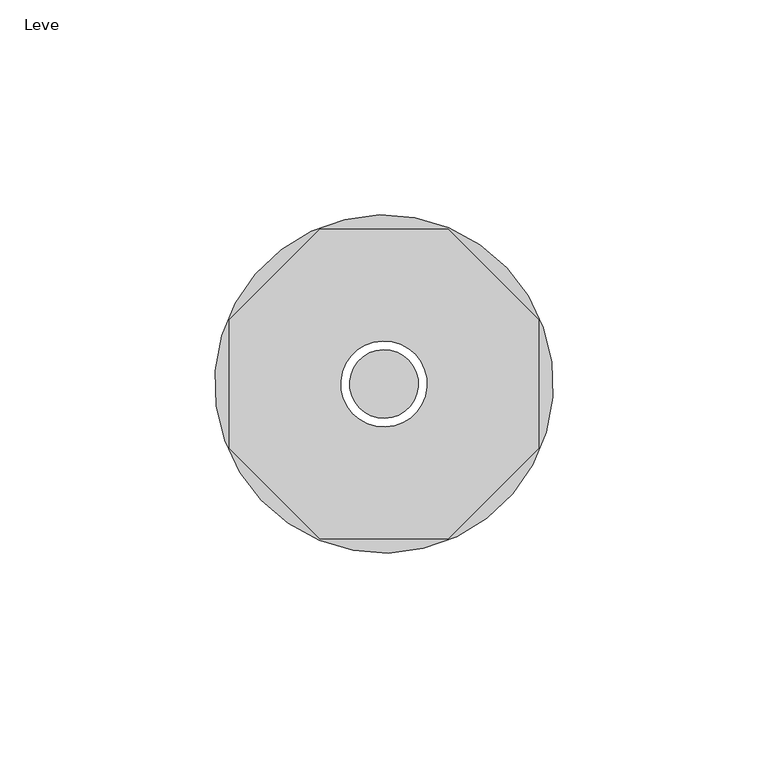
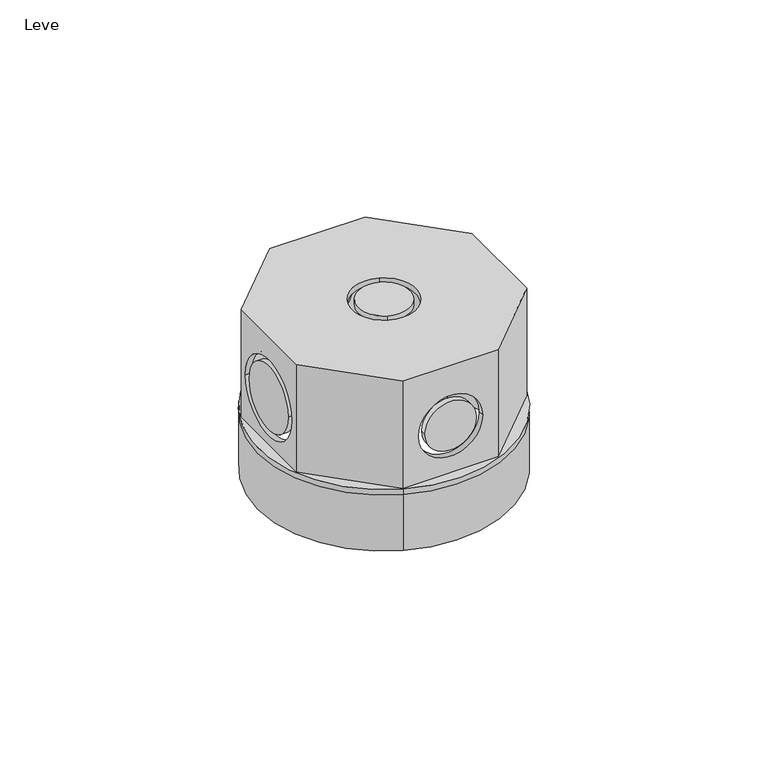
"""IFC4 building model written with IfcOpenShell, lengths in millimetres: pipe fitting geometry, AmancoWavin_ConexõesdoConduite_LinhaEletricaCorrugadoCaixaOctogonal3x3 : Leve."""

from ifc_helpers import new_model, si_unit, frame, origin, place, context, project, spatial, polyline, circle_curve, source, transform, mapped, element, save
from ifc_brep_helpers import plane_surface, cylinder_surface, revolved_surface, advanced_brep


def leve_111e3c81(model_context):
    return source(origin(), model_context, "Body", "AdvancedBrep", [
        advanced_brep(
        [(15.0585931, 36.3546596, 20.3), (-15.0585931, -36.3546596, 20.3), (-36.0, -14.9116882, 20.3), (-36.0, 14.9116882, 20.3), (-14.9116882, 36.0, 20.3), (14.9116882, 36.0, 20.3), (36.0, 14.9116882, 20.3), (36.0, -14.9116882, 20.3), (14.9116882, -36.0, 20.3), (-14.9116882, -36.0, 20.3), (15.0585931, 36.3546596, 18.5), (-15.0585931, -36.3546596, 18.5), (15.0585931, 36.3546596, 0.0), (-15.0585931, -36.3546596, 0.0), (14.3697629, 34.6916764, 0.0), (-14.3697629, -34.6916764, 0.0), (-14.3697629, -34.6916764, 18.5), (14.3697629, 34.6916764, 18.5), (-34.2, 14.1661038, 53.9), (-14.1661038, 34.2, 53.9), (14.1661038, 34.2, 53.9), (34.2, 14.1661038, 53.9), (34.2, -14.1661038, 53.9), (14.1661038, -34.2, 53.9), (-14.1661038, -34.2, 53.9), (-34.2, -14.1661038, 53.9), (3.8268343, 9.2387953, 53.9), (-3.8268343, -9.2387953, 53.9), (-34.2, -14.1661038, 18.5), (-34.2, 14.1661038, 18.5), (-34.2, 12.5, 35.7), (-34.2, -12.5, 35.7), (-14.1661038, -34.2, 18.5), (14.1661038, -34.2, 18.5), (-10.0, -34.2, 35.7), (10.0, -34.2, 35.7), (34.2, -14.1661038, 18.5), (34.2, 14.1661038, 18.5), (34.2, -12.5, 35.7), (34.2, 12.5, 35.7), (14.1661038, 34.2, 18.5), (-14.1661038, 34.2, 18.5), (10.0, 34.2, 35.7), (-10.0, 34.2, 35.7), (-36.0, 14.9116882, 55.7), (-36.0, -14.9116882, 55.7), (-14.9116882, -36.0, 55.7), (14.9116882, -36.0, 55.7), (36.0, -14.9116882, 55.7), (36.0, 14.9116882, 55.7), (14.9116882, 36.0, 55.7), (-14.9116882, 36.0, 55.7), (-3.8268343, -9.2387953, 55.7), (3.8268343, 9.2387953, 55.7), (-36.0, -12.5, 35.7), (-36.0, 12.5, 35.7), (10.0, -36.0, 35.7), (-10.0, -36.0, 35.7), (36.0, 12.5, 35.7), (36.0, -12.5, 35.7), (-10.0, 36.0, 35.7), (10.0, 36.0, 35.7)],
        [
            (0, 1, circle_curve(frame((0.0, 0.0, 20.3), z_axis=(0.0, 0.0, 1.0), x_axis=(-0.3826834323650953, -0.9238795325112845, 0.0)), 39.35)),
            (1, 0, circle_curve(frame((0.0, 0.0, 20.3), z_axis=(0.0, 0.0, 1.0), x_axis=(-0.3826834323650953, -0.9238795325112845, 0.0)), 39.35)),
            (2, 3),
            (3, 4),
            (4, 5),
            (5, 6),
            (6, 7),
            (7, 8),
            (8, 9),
            (9, 2),
            (0, 10),
            (10, 11, circle_curve(frame((0.0, 0.0, 18.5), z_axis=(0.0, 0.0, 1.0), x_axis=(-0.3826834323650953, -0.9238795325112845, 0.0)), 39.35)),
            (11, 1),
            (11, 10, circle_curve(frame((0.0, 0.0, 18.5), z_axis=(0.0, 0.0, 1.0), x_axis=(-0.3826834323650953, -0.9238795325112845, 0.0)), 39.35)),
            (12, 13, circle_curve(frame((0.0, 0.0, 0.0), z_axis=(0.0, 0.0, -1.0), x_axis=(-0.3826834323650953, -0.9238795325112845, 0.0)), 39.35)),
            (13, 12, circle_curve(frame((0.0, 0.0, 0.0), z_axis=(0.0, 0.0, -1.0), x_axis=(-0.3826834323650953, -0.9238795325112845, 0.0)), 39.35)),
            (14, 15, circle_curve(frame((0.0, 0.0, 0.0), z_axis=(0.0, 0.0, 1.0), x_axis=(-0.3826834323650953, -0.9238795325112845, 0.0)), 37.55)),
            (15, 14, circle_curve(frame((0.0, 0.0, 0.0), z_axis=(0.0, 0.0, 1.0), x_axis=(-0.3826834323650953, -0.9238795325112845, 0.0)), 37.55)),
            (13, 11),
            (10, 12),
            (15, 16),
            (16, 17, circle_curve(frame((0.0, 0.0, 18.5), z_axis=(0.0, 0.0, 1.0), x_axis=(-0.3826834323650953, -0.9238795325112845, 0.0)), 37.55)),
            (17, 14),
            (17, 16, circle_curve(frame((0.0, 0.0, 18.5), z_axis=(0.0, 0.0, 1.0), x_axis=(-0.3826834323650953, -0.9238795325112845, 0.0)), 37.55)),
            (18, 19),
            (19, 20),
            (20, 21),
            (21, 22),
            (22, 23),
            (23, 24),
            (24, 25),
            (25, 18),
            (26, 27, circle_curve(frame((0.0, 0.0, 53.9), z_axis=(0.0, 0.0, 1.0), x_axis=(-0.3826834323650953, -0.9238795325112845, 0.0)), 10.0)),
            (27, 26, circle_curve(frame((0.0, 0.0, 53.9), z_axis=(0.0, 0.0, 1.0), x_axis=(-0.3826834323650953, -0.9238795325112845, 0.0)), 10.0)),
            (25, 28),
            (28, 29),
            (29, 18),
            (30, 31, circle_curve(frame((-34.2, 0.0, 35.7), z_axis=(-1.0, 0.0, 0.0), x_axis=(0.0, -1.0, 0.0)), 12.5)),
            (31, 30, circle_curve(frame((-34.2, 0.0, 35.7), z_axis=(-1.0, 0.0, 0.0), x_axis=(0.0, -1.0, 0.0)), 12.5)),
            (24, 32),
            (32, 28),
            (23, 33),
            (33, 32),
            (34, 35, circle_curve(frame((0.0, -34.2, 35.7), z_axis=(0.0, -1.0, 0.0), x_axis=(-1.0, 0.0, 0.0)), 10.0)),
            (35, 34, circle_curve(frame((0.0, -34.2, 35.7), z_axis=(0.0, -1.0, 0.0), x_axis=(-1.0, 0.0, 0.0)), 10.0)),
            (22, 36),
            (36, 33),
            (21, 37),
            (37, 36),
            (38, 39, circle_curve(frame((34.2, 0.0, 35.7), z_axis=(1.0, 0.0, 0.0), x_axis=(0.0, -1.0, 0.0)), 12.5)),
            (39, 38, circle_curve(frame((34.2, 0.0, 35.7), z_axis=(1.0, 0.0, 0.0), x_axis=(0.0, -1.0, 0.0)), 12.5)),
            (20, 40),
            (40, 37),
            (19, 41),
            (41, 40),
            (42, 43, circle_curve(frame((0.0, 34.2, 35.7), z_axis=(0.0, 1.0, 0.0), x_axis=(-1.0, 0.0, 0.0)), 10.0)),
            (43, 42, circle_curve(frame((0.0, 34.2, 35.7), z_axis=(0.0, 1.0, 0.0), x_axis=(-1.0, 0.0, 0.0)), 10.0)),
            (29, 41),
            (44, 45),
            (45, 46),
            (46, 47),
            (47, 48),
            (48, 49),
            (49, 50),
            (50, 51),
            (51, 44),
            (52, 53, circle_curve(frame((0.0, 0.0, 55.7), z_axis=(0.0, 0.0, -1.0), x_axis=(-0.3826834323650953, -0.9238795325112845, 0.0)), 10.0)),
            (53, 52, circle_curve(frame((0.0, 0.0, 55.7), z_axis=(0.0, 0.0, -1.0), x_axis=(-0.3826834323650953, -0.9238795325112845, 0.0)), 10.0)),
            (44, 3),
            (2, 45),
            (54, 55, circle_curve(frame((-36.0, 0.0, 35.7), z_axis=(1.0, 0.0, 0.0), x_axis=(0.0, -1.0, 0.0)), 12.5)),
            (55, 54, circle_curve(frame((-36.0, 0.0, 35.7), z_axis=(1.0, 0.0, 0.0), x_axis=(0.0, -1.0, 0.0)), 12.5)),
            (9, 46),
            (8, 47),
            (56, 57, circle_curve(frame((0.0, -36.0, 35.7), z_axis=(0.0, 1.0, 0.0), x_axis=(-1.0, 0.0, 0.0)), 10.0)),
            (57, 56, circle_curve(frame((0.0, -36.0, 35.7), z_axis=(0.0, 1.0, 0.0), x_axis=(-1.0, 0.0, 0.0)), 10.0)),
            (7, 48),
            (6, 49),
            (58, 59, circle_curve(frame((36.0, 0.0, 35.7), z_axis=(-1.0, 0.0, 0.0), x_axis=(0.0, -1.0, 0.0)), 12.5)),
            (59, 58, circle_curve(frame((36.0, 0.0, 35.7), z_axis=(-1.0, 0.0, 0.0), x_axis=(0.0, -1.0, 0.0)), 12.5)),
            (5, 50),
            (4, 51),
            (60, 61, circle_curve(frame((0.0, 36.0, 35.7), z_axis=(0.0, -1.0, 0.0), x_axis=(-1.0, 0.0, 0.0)), 10.0)),
            (61, 60, circle_curve(frame((0.0, 36.0, 35.7), z_axis=(0.0, -1.0, 0.0), x_axis=(-1.0, 0.0, 0.0)), 10.0)),
            (52, 27),
            (26, 53),
            (56, 35),
            (34, 57),
            (60, 43),
            (42, 61),
            (54, 31),
            (30, 55),
            (58, 39),
            (38, 59),
        ],
        [
            plane_surface(frame((-15.0585931, -36.3546596, 20.3), z_axis=(0.0, 0.0, 1.0), x_axis=(0.9238795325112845, -0.3826834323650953, 0.0))),
            cylinder_surface(frame((0.0, 0.0, 18.5), z_axis=(0.0, 0.0, 1.0), x_axis=(-0.3826834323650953, -0.9238795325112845, 0.0)), 39.35),
            plane_surface(frame((-15.0585931, -36.3546596, 0.0), z_axis=(0.0, 0.0, -1.0), x_axis=(-0.9238795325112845, 0.3826834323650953, 0.0))),
            cylinder_surface(frame((0.0, 0.0, 0.0), z_axis=(0.0, 0.0, 1.0), x_axis=(-0.3826834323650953, -0.9238795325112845, 0.0)), 39.35),
            revolved_surface(polyline([(-14.369762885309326, -34.691676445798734, 0.0), (-14.369762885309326, -34.691676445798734, 18.5)]), (0.0, 0.0, 32.2), (0.0, 0.0, -1.0)),
            plane_surface(frame((-34.2, 14.1661038, 53.9), z_axis=(0.0, 0.0, -1.0), x_axis=(0.0, -1.0, 0.0))),
            plane_surface(frame((-34.2, 14.1661038, 53.9), z_axis=(1.0, 0.0, 0.0), x_axis=(0.0, 0.0, -1.0))),
            plane_surface(frame((-34.2, -14.1661038, 53.9), z_axis=(0.7071067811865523, 0.7071067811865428, 0.0), x_axis=(0.0, 0.0, -1.0))),
            plane_surface(frame((-14.1661038, -34.2, 53.9), z_axis=(0.0, 1.0, 0.0), x_axis=(0.0, 0.0, -1.0))),
            plane_surface(frame((14.1661038, -34.2, 53.9), z_axis=(-0.7071067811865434, 0.7071067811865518, 0.0), x_axis=(0.0, 0.0, -1.0))),
            plane_surface(frame((34.2, -14.1661038, 53.9), z_axis=(-1.0, 0.0, 0.0), x_axis=(0.0, 0.0, -1.0))),
            plane_surface(frame((34.2, 14.1661038, 53.9), z_axis=(-0.7071067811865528, -0.7071067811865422, 0.0), x_axis=(0.0, 0.0, -1.0))),
            plane_surface(frame((14.1661038, 34.2, 53.9), z_axis=(0.0, -1.0, 0.0), x_axis=(0.0, 0.0, -1.0))),
            plane_surface(frame((-14.1661038, 34.2, 53.9), z_axis=(0.7071067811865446, -0.7071067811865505, 0.0), x_axis=(0.0, 0.0, -1.0))),
            plane_surface(frame((-36.0, 14.9116882, 55.7), z_axis=(0.0, 0.0, 1.0), x_axis=(0.0, -1.0, 0.0))),
            plane_surface(frame((-36.0, 14.9116882, 18.5), z_axis=(0.0, 0.0, -1.0), x_axis=(0.0, 1.0, 0.0))),
            plane_surface(frame((-36.0, 14.9116882, 55.7), z_axis=(-1.0, 0.0, 0.0), x_axis=(0.0, 0.0, -1.0))),
            plane_surface(frame((-36.0, -14.9116882, 55.7), z_axis=(-0.7071067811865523, -0.7071067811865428, 0.0), x_axis=(0.0, 0.0, -1.0))),
            plane_surface(frame((-14.9116882, -36.0, 55.7), z_axis=(0.0, -1.0, 0.0), x_axis=(0.0, 0.0, -1.0))),
            plane_surface(frame((14.9116882, -36.0, 55.7), z_axis=(0.7071067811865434, -0.7071067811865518, 0.0), x_axis=(0.0, 0.0, -1.0))),
            plane_surface(frame((36.0, -14.9116882, 55.7), z_axis=(1.0, 0.0, 0.0), x_axis=(0.0, 0.0, -1.0))),
            plane_surface(frame((36.0, 14.9116882, 55.7), z_axis=(0.7071067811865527, 0.7071067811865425, 0.0), x_axis=(0.0, 0.0, -1.0))),
            plane_surface(frame((14.9116882, 36.0, 55.7), z_axis=(0.0, 1.0, 0.0), x_axis=(0.0, 0.0, -1.0))),
            plane_surface(frame((-14.9116882, 36.0, 55.7), z_axis=(-0.7071067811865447, 0.7071067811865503, 0.0), x_axis=(0.0, 0.0, -1.0))),
            revolved_surface(polyline([(-3.826834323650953, -9.238795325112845, 55.7), (-3.826834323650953, -9.238795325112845, 53.9)]), (0.0, 0.0, 53.9), (0.0, 0.0, 1.0)),
            revolved_surface(polyline([(-10.0, -34.2, 35.7), (-10.0, -36.0, 35.7)]), (0.0, 0.0, 35.7), (0.0, 1.0, 0.0)),
            revolved_surface(polyline([(-10.0, 36.0, 35.7), (-10.0, 34.2, 35.7)]), (0.0, 0.0, 35.7), (0.0, 1.0, 0.0)),
            revolved_surface(polyline([(-36.0, -12.5, 35.7), (-34.2, -12.5, 35.7)]), (36.0, 0.0, 35.7), (-1.0, 0.0, 0.0)),
            revolved_surface(polyline([(34.2, -12.5, 35.7), (36.0, -12.5, 35.7)]), (36.0, 0.0, 35.7), (-1.0, 0.0, 0.0)),
        ],
        [
            (0, [[1, 2], [3, 4, 5, 6, 7, 8, 9, 10]]),
            (1, [[-1, 11, 12, 13]]),
            (1, [[-2, -13, 14, -11]]),
            (2, [[15, 16], [17, 18]]),
            (3, [[-16, 19, -12, 20]]),
            (3, [[-15, -20, -14, -19]]),
            (4, [[-18, 21, 22, 23]]),
            (4, [[-17, -23, 24, -21]]),
            (5, [[25, 26, 27, 28, 29, 30, 31, 32], [33, 34]]),
            (6, [[-32, 35, 36, 37], [38, 39]]),
            (7, [[-31, 40, 41, -35]]),
            (8, [[-30, 42, 43, -40], [44, 45]]),
            (9, [[-29, 46, 47, -42]]),
            (10, [[-28, 48, 49, -46], [50, 51]]),
            (11, [[-27, 52, 53, -48]]),
            (12, [[-26, 54, 55, -52], [56, 57]]),
            (13, [[-25, -37, 58, -54]]),
            (14, [[59, 60, 61, 62, 63, 64, 65, 66], [67, 68]]),
            (15, [[-22, -24], [-36, -41, -43, -47, -49, -53, -55, -58]]),
            (16, [[-59, 69, -3, 70], [71, 72]]),
            (17, [[-60, -70, -10, 73]]),
            (18, [[-61, -73, -9, 74], [75, 76]]),
            (19, [[-62, -74, -8, 77]]),
            (20, [[-63, -77, -7, 78], [79, 80]]),
            (21, [[-64, -78, -6, 81]]),
            (22, [[-65, -81, -5, 82], [83, 84]]),
            (23, [[-66, -82, -4, -69]]),
            (24, [[85, -33, 86, -67]]),
            (24, [[-85, -68, -86, -34]]),
            (25, [[-75, 87, -44, 88]]),
            (26, [[-83, 89, -56, 90]]),
            (25, [[-76, -88, -45, -87]]),
            (26, [[-84, -90, -57, -89]]),
            (27, [[-71, 91, -38, 92]]),
            (28, [[-79, 93, -50, 94]]),
            (27, [[-72, -92, -39, -91]]),
            (28, [[-80, -94, -51, -93]]),
        ],
    ),
        advanced_brep(
        [(3.0614675, 7.3910363, 53.9), (-3.0614675, -7.3910363, 53.9), (-3.0614675, -7.3910363, 55.7), (3.0614675, 7.3910363, 55.7)],
        [
            (0, 1, circle_curve(frame((0.0, 0.0, 53.9), z_axis=(0.0, 0.0, -1.0), x_axis=(-0.3826834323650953, -0.9238795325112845, 0.0)), 8.0)),
            (1, 0, circle_curve(frame((0.0, 0.0, 53.9), z_axis=(0.0, 0.0, -1.0), x_axis=(-0.3826834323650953, -0.9238795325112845, 0.0)), 8.0)),
            (2, 3, circle_curve(frame((0.0, 0.0, 55.7), z_axis=(0.0, 0.0, 1.0), x_axis=(-0.3826834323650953, -0.9238795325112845, 0.0)), 8.0)),
            (3, 2, circle_curve(frame((0.0, 0.0, 55.7), z_axis=(0.0, 0.0, 1.0), x_axis=(-0.3826834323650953, -0.9238795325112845, 0.0)), 8.0)),
            (2, 1),
            (0, 3),
        ],
        [
            plane_surface(frame((-34.2, 14.1661038, 53.9), z_axis=(0.0, 0.0, -1.0), x_axis=(0.0, -1.0, 0.0))),
            plane_surface(frame((-36.0, 14.9116882, 55.7), z_axis=(0.0, 0.0, 1.0), x_axis=(0.0, -1.0, 0.0))),
            cylinder_surface(frame((0.0, 0.0, 32.2), z_axis=(0.0, 0.0, -1.0), x_axis=(-0.3826834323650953, -0.9238795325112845, 0.0)), 8.0),
        ],
        [
            (0, [[1, 2]]),
            (1, [[3, 4]]),
            (2, [[5, -1, 6, -3]]),
            (2, [[-5, -4, -6, -2]]),
        ],
    ),
        advanced_brep(
        [(-34.2, 10.5, 35.7), (-34.2, -10.5, 35.7), (-36.0, -10.5, 35.7), (-36.0, 10.5, 35.7)],
        [
            (0, 1, circle_curve(frame((-34.2, 0.0, 35.7), z_axis=(1.0, 0.0, 0.0), x_axis=(0.0, -1.0, 0.0)), 10.5)),
            (1, 0, circle_curve(frame((-34.2, 0.0, 35.7), z_axis=(1.0, 0.0, 0.0), x_axis=(0.0, -1.0, 0.0)), 10.5)),
            (2, 3, circle_curve(frame((-36.0, 0.0, 35.7), z_axis=(-1.0, 0.0, 0.0), x_axis=(0.0, -1.0, 0.0)), 10.5)),
            (3, 2, circle_curve(frame((-36.0, 0.0, 35.7), z_axis=(-1.0, 0.0, 0.0), x_axis=(0.0, -1.0, 0.0)), 10.5)),
            (2, 1),
            (0, 3),
        ],
        [
            plane_surface(frame((-34.2, 14.1661038, 53.9), z_axis=(1.0, 0.0, 0.0), x_axis=(0.0, 0.0, -1.0))),
            plane_surface(frame((-36.0, 14.9116882, 55.7), z_axis=(-1.0, 0.0, 0.0), x_axis=(0.0, 0.0, -1.0))),
            cylinder_surface(frame((0.0, 0.0, 35.7), z_axis=(1.0, 0.0, 0.0), x_axis=(0.0, -1.0, 0.0)), 10.5),
        ],
        [
            (0, [[1, 2]]),
            (1, [[3, 4]]),
            (2, [[-3, 5, -1, 6]]),
            (2, [[-4, -6, -2, -5]]),
        ],
    ),
        advanced_brep(
        [(-8.0, -34.2, 35.7), (8.0, -34.2, 35.7), (8.0, -36.0, 35.7), (-8.0, -36.0, 35.7)],
        [
            (0, 1, circle_curve(frame((0.0, -34.2, 35.7), z_axis=(0.0, 1.0, 0.0), x_axis=(-1.0, 0.0, 0.0)), 8.0)),
            (1, 0, circle_curve(frame((0.0, -34.2, 35.7), z_axis=(0.0, 1.0, 0.0), x_axis=(-1.0, 0.0, 0.0)), 8.0)),
            (2, 3, circle_curve(frame((0.0, -36.0, 35.7), z_axis=(0.0, -1.0, 0.0), x_axis=(-1.0, 0.0, 0.0)), 8.0)),
            (3, 2, circle_curve(frame((0.0, -36.0, 35.7), z_axis=(0.0, -1.0, 0.0), x_axis=(-1.0, 0.0, 0.0)), 8.0)),
            (2, 1),
            (0, 3),
        ],
        [
            plane_surface(frame((-14.1661038, -34.2, 53.9), z_axis=(0.0, 1.0, 0.0), x_axis=(0.0, 0.0, -1.0))),
            plane_surface(frame((-14.9116882, -36.0, 55.7), z_axis=(0.0, -1.0, 0.0), x_axis=(0.0, 0.0, -1.0))),
            cylinder_surface(frame((0.0, -36.0, 35.7), z_axis=(0.0, -1.0, 0.0), x_axis=(-1.0, 0.0, 0.0)), 8.0),
        ],
        [
            (0, [[1, 2]]),
            (1, [[3, 4]]),
            (2, [[-3, 5, -1, 6]]),
            (2, [[-4, -6, -2, -5]]),
        ],
    ),
        advanced_brep(
        [(34.2, -10.5, 35.7), (34.2, 10.5, 35.7), (36.0, 10.5, 35.7), (36.0, -10.5, 35.7)],
        [
            (0, 1, circle_curve(frame((34.2, 0.0, 35.7), z_axis=(-1.0, 0.0, 0.0), x_axis=(0.0, -1.0, 0.0)), 10.5)),
            (1, 0, circle_curve(frame((34.2, 0.0, 35.7), z_axis=(-1.0, 0.0, 0.0), x_axis=(0.0, -1.0, 0.0)), 10.5)),
            (2, 3, circle_curve(frame((36.0, 0.0, 35.7), z_axis=(1.0, 0.0, 0.0), x_axis=(0.0, -1.0, 0.0)), 10.5)),
            (3, 2, circle_curve(frame((36.0, 0.0, 35.7), z_axis=(1.0, 0.0, 0.0), x_axis=(0.0, -1.0, 0.0)), 10.5)),
            (2, 1),
            (0, 3),
        ],
        [
            plane_surface(frame((34.2, -14.1661038, 53.9), z_axis=(-1.0, 0.0, 0.0), x_axis=(0.0, 0.0, -1.0))),
            plane_surface(frame((36.0, -14.9116882, 55.7), z_axis=(1.0, 0.0, 0.0), x_axis=(0.0, 0.0, -1.0))),
            cylinder_surface(frame((0.0, 0.0, 35.7), z_axis=(1.0, 0.0, 0.0), x_axis=(0.0, -1.0, 0.0)), 10.5),
        ],
        [
            (0, [[1, 2]]),
            (1, [[3, 4]]),
            (2, [[-3, 5, -1, 6]]),
            (2, [[-4, -6, -2, -5]]),
        ],
    ),
        advanced_brep(
        [(8.0, 34.2, 35.7), (-8.0, 34.2, 35.7), (-8.0, 36.0, 35.7), (8.0, 36.0, 35.7)],
        [
            (0, 1, circle_curve(frame((0.0, 34.2, 35.7), z_axis=(0.0, -1.0, 0.0), x_axis=(-1.0, 0.0, 0.0)), 8.0)),
            (1, 0, circle_curve(frame((0.0, 34.2, 35.7), z_axis=(0.0, -1.0, 0.0), x_axis=(-1.0, 0.0, 0.0)), 8.0)),
            (2, 3, circle_curve(frame((0.0, 36.0, 35.7), z_axis=(0.0, 1.0, 0.0), x_axis=(-1.0, 0.0, 0.0)), 8.0)),
            (3, 2, circle_curve(frame((0.0, 36.0, 35.7), z_axis=(0.0, 1.0, 0.0), x_axis=(-1.0, 0.0, 0.0)), 8.0)),
            (2, 1),
            (0, 3),
        ],
        [
            plane_surface(frame((14.1661038, 34.2, 53.9), z_axis=(0.0, -1.0, 0.0), x_axis=(0.0, 0.0, -1.0))),
            plane_surface(frame((14.9116882, 36.0, 55.7), z_axis=(0.0, 1.0, 0.0), x_axis=(0.0, 0.0, -1.0))),
            cylinder_surface(frame((0.0, -36.0, 35.7), z_axis=(0.0, -1.0, 0.0), x_axis=(-1.0, 0.0, 0.0)), 8.0),
        ],
        [
            (0, [[1, 2]]),
            (1, [[3, 4]]),
            (2, [[-3, 5, -1, 6]]),
            (2, [[-4, -6, -2, -5]]),
        ],
    ),
    ])


if __name__ == "__main__":
    model = new_model("IFC4")
    model_context = context("Model", 3, world=origin())
    ifc_project = project(units=[si_unit("LENGTHUNIT", "METRE", prefix="MILLI")], contexts=[model_context])
    site = spatial("IfcSite", under=ifc_project)
    building = spatial("IfcBuilding", under=site)
    placement = place(None, origin())
    leve_shape = leve_111e3c81(model_context)
    element("IfcPipeFitting", 1, ObjectType="AmancoWavin_ConexõesdoConduite_LinhaEletricaCorrugadoCaixaOctogonal3x3 : Leve", at=placement, inside=building, context=model_context, shape_type="MappedRepresentation", body=[
        mapped(leve_shape, transform((0.0, 0.0, 0.0), x_axis=(1.0, 0.0, 0.0), y_axis=(0.0, 1.0, 0.0), z_axis=(0.0, 0.0, 1.0))),
    ])
    save(model, "model.ifc")
